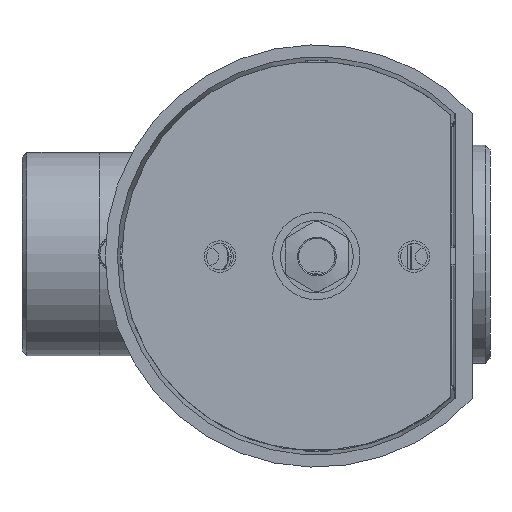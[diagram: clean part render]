
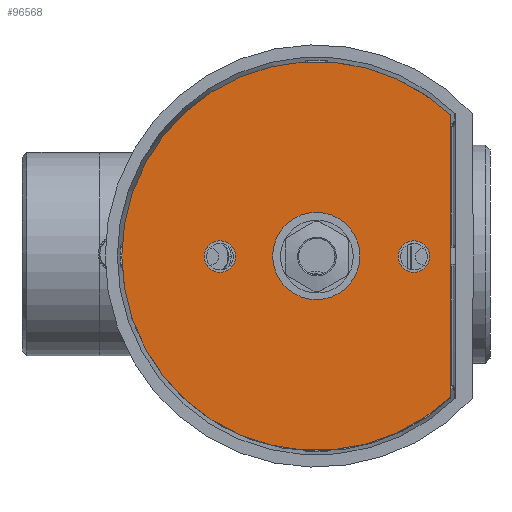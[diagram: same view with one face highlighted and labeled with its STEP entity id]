
A CAD part, front view. The second image highlights one B-rep face of the part: STEP entity #96568.
In plain terms, the highlighted planar face has unit normal (0, -1, 0).
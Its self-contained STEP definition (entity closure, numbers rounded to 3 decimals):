
#96368=CARTESIAN_POINT('',(-11.817,-64.12,-2.883));
#96369=DIRECTION('',(0.,1.,0.));
#96370=DIRECTION('',(0.688,0.,-0.725));
#96371=AXIS2_PLACEMENT_3D('',#96368,#96369,#96370);
#96373=CARTESIAN_POINT('',(-11.817,-64.12,-2.883));
#96374=DIRECTION('',(0.,1.,0.));
#96375=DIRECTION('',(-1.,0.,0.));
#96376=AXIS2_PLACEMENT_3D('',#96373,#96374,#96375);
#96378=DIRECTION('',(0.,0.,-1.));
#96379=VECTOR('',#96378,58.181);
#96380=CARTESIAN_POINT('',(15.783,-64.12,26.207));
#96381=LINE('',#96380,#96379);
#96382=CARTESIAN_POINT('',(-31.7,-64.12,-3.));
#96383=DIRECTION('',(0.,-1.,0.));
#96384=DIRECTION('',(-1.,0.,0.));
#96385=AXIS2_PLACEMENT_3D('',#96382,#96383,#96384);
#96387=CARTESIAN_POINT('',(-31.7,-64.12,-3.));
#96388=DIRECTION('',(0.,-1.,0.));
#96389=DIRECTION('',(1.,0.,0.));
#96390=AXIS2_PLACEMENT_3D('',#96387,#96388,#96389);
#96392=CARTESIAN_POINT('',(8.3,-64.12,-3.));
#96393=DIRECTION('',(0.,-1.,0.));
#96394=DIRECTION('',(-1.,0.,0.));
#96395=AXIS2_PLACEMENT_3D('',#96392,#96393,#96394);
#96397=CARTESIAN_POINT('',(8.3,-64.12,-3.));
#96398=DIRECTION('',(0.,-1.,0.));
#96399=DIRECTION('',(1.,0.,0.));
#96400=AXIS2_PLACEMENT_3D('',#96397,#96398,#96399);
#96402=CARTESIAN_POINT('',(-11.817,-64.12,-2.883));
#96403=DIRECTION('',(0.,-1.,0.));
#96404=DIRECTION('',(-1.,0.,0.));
#96405=AXIS2_PLACEMENT_3D('',#96402,#96403,#96404);
#96407=CARTESIAN_POINT('',(-11.817,-64.12,-2.883));
#96408=DIRECTION('',(0.,-1.,0.));
#96409=DIRECTION('',(1.,0.,0.));
#96410=AXIS2_PLACEMENT_3D('',#96407,#96408,#96409);
#96456=CARTESIAN_POINT('',(-2.817,-64.12,-2.883));
#96457=VERTEX_POINT('',#96456);
#96458=CARTESIAN_POINT('',(-20.817,-64.12,-2.883));
#96459=VERTEX_POINT('',#96458);
#96460=CARTESIAN_POINT('',(-51.917,-64.12,-2.883));
#96461=CARTESIAN_POINT('',(15.783,-64.12,26.207));
#96462=VERTEX_POINT('',#96460);
#96463=VERTEX_POINT('',#96461);
#96464=CARTESIAN_POINT('',(15.783,-64.12,-31.974));
#96465=VERTEX_POINT('',#96464);
#96466=CARTESIAN_POINT('',(-34.95,-64.12,-3.));
#96467=CARTESIAN_POINT('',(-28.45,-64.12,-3.));
#96468=VERTEX_POINT('',#96466);
#96469=VERTEX_POINT('',#96467);
#96470=CARTESIAN_POINT('',(5.05,-64.12,-3.));
#96471=CARTESIAN_POINT('',(11.55,-64.12,-3.));
#96472=VERTEX_POINT('',#96470);
#96473=VERTEX_POINT('',#96471);
#96540=CARTESIAN_POINT('',(0.,-64.12,0.));
#96541=DIRECTION('',(0.,-1.,0.));
#96542=DIRECTION('',(1.,0.,0.));
#96543=AXIS2_PLACEMENT_3D('',#96540,#96541,#96542);
#96544=PLANE('',#96543);
#96545=ORIENTED_EDGE('',*,*,#96520,.T.);
#96546=ORIENTED_EDGE('',*,*,#96518,.T.);
#96547=ORIENTED_EDGE('',*,*,#96534,.T.);
#96548=EDGE_LOOP('',(#96545,#96546,#96547));
#96549=FACE_OUTER_BOUND('',#96548,.F.);
#96551=ORIENTED_EDGE('',*,*,#96550,.T.);
#96553=ORIENTED_EDGE('',*,*,#96552,.T.);
#96554=EDGE_LOOP('',(#96551,#96553));
#96555=FACE_BOUND('',#96554,.F.);
#96557=ORIENTED_EDGE('',*,*,#96556,.T.);
#96559=ORIENTED_EDGE('',*,*,#96558,.T.);
#96560=EDGE_LOOP('',(#96557,#96559));
#96561=FACE_BOUND('',#96560,.F.);
#96563=ORIENTED_EDGE('',*,*,#96562,.T.);
#96565=ORIENTED_EDGE('',*,*,#96564,.T.);
#96566=EDGE_LOOP('',(#96563,#96565));
#96567=FACE_BOUND('',#96566,.F.);
#96568=ADVANCED_FACE('',(#96549,#96555,#96561,#96567),#96544,.T.);
#96372=CIRCLE('',#96371,40.1);
#96377=CIRCLE('',#96376,40.1);
#96386=CIRCLE('',#96385,3.25);
#96391=CIRCLE('',#96390,3.25);
#96396=CIRCLE('',#96395,3.25);
#96401=CIRCLE('',#96400,3.25);
#96406=CIRCLE('',#96405,9.);
#96411=CIRCLE('',#96410,9.);
#96518=EDGE_CURVE('',#96462,#96463,#96377,.T.);
#96520=EDGE_CURVE('',#96465,#96462,#96372,.T.);
#96534=EDGE_CURVE('',#96463,#96465,#96381,.T.);
#96550=EDGE_CURVE('',#96468,#96469,#96386,.T.);
#96552=EDGE_CURVE('',#96469,#96468,#96391,.T.);
#96556=EDGE_CURVE('',#96472,#96473,#96396,.T.);
#96558=EDGE_CURVE('',#96473,#96472,#96401,.T.);
#96562=EDGE_CURVE('',#96459,#96457,#96406,.T.);
#96564=EDGE_CURVE('',#96457,#96459,#96411,.T.);
